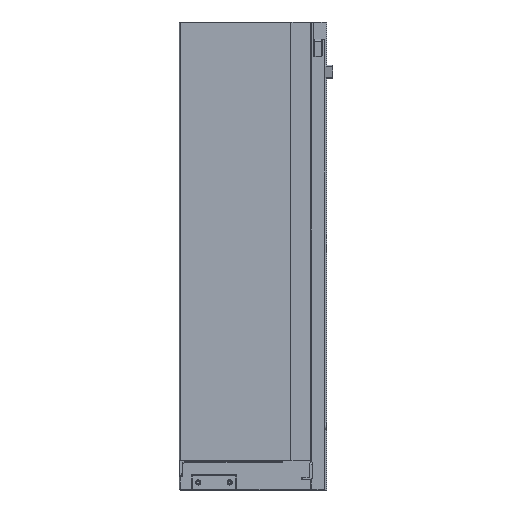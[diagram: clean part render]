
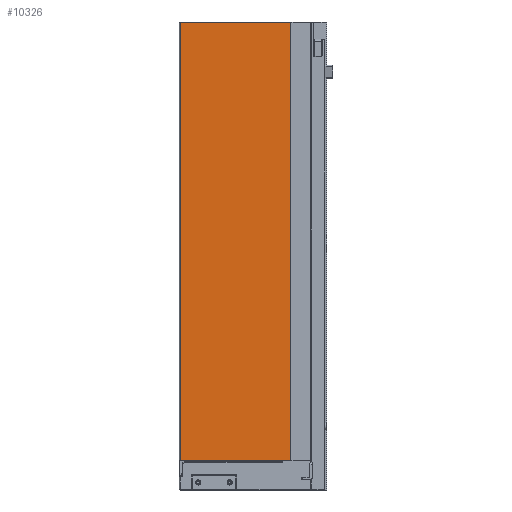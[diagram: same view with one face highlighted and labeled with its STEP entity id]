
A CAD part, left-side view. The second image highlights one B-rep face of the part: STEP entity #10326.
In plain terms, the highlighted planar face has unit normal (-1, 0, 0).
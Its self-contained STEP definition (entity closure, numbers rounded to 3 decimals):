
#404 = LINE ( 'NONE', #1136, #1777 ) ;
#846 = AXIS2_PLACEMENT_3D ( 'NONE', #10946, #5144, #11914 ) ;
#1102 = CARTESIAN_POINT ( 'NONE',  ( -25.5, 0., 0. ) ) ;
#1114 = VECTOR ( 'NONE', #9994, 1000. ) ;
#1136 = CARTESIAN_POINT ( 'NONE',  ( -25.5, 0., 0. ) ) ;
#1777 = VECTOR ( 'NONE', #11827, 1000. ) ;
#2242 = CARTESIAN_POINT ( 'NONE',  ( -25.5, 93.8, -462.455 ) ) ;
#2584 = ORIENTED_EDGE ( 'NONE', *, *, #12325, .T. ) ;
#2675 = VERTEX_POINT ( 'NONE', #8718 ) ;
#3186 = ORIENTED_EDGE ( 'NONE', *, *, #9266, .F. ) ;
#3194 = DIRECTION ( 'NONE',  ( 0., 1., 0. ) ) ;
#3726 = LINE ( 'NONE', #2242, #1114 ) ;
#3961 = VERTEX_POINT ( 'NONE', #1102 ) ;
#3986 = ORIENTED_EDGE ( 'NONE', *, *, #11575, .T. ) ;
#4208 = LINE ( 'NONE', #8977, #6458 ) ;
#4319 = CARTESIAN_POINT ( 'NONE',  ( -25.5, 93.8, 0. ) ) ;
#4368 = EDGE_CURVE ( 'NONE', #2675, #10632, #4208, .T. ) ;
#4849 = VECTOR ( 'NONE', #8260, 1000. ) ;
#5144 = DIRECTION ( 'NONE',  ( -1., 0., 0. ) ) ;
#6134 = EDGE_LOOP ( 'NONE', ( #3186, #11193, #3986, #2584 ) ) ;
#6458 = VECTOR ( 'NONE', #3194, 1000. ) ;
#7282 = CARTESIAN_POINT ( 'NONE',  ( -25.5, 0., -462.455 ) ) ;
#7407 = LINE ( 'NONE', #7282, #4849 ) ;
#8260 = DIRECTION ( 'NONE',  ( 0., 0., 1. ) ) ;
#8552 = CARTESIAN_POINT ( 'NONE',  ( -25.5, 93.8, -373.5 ) ) ;
#8718 = CARTESIAN_POINT ( 'NONE',  ( -25.5, 0., -373.5 ) ) ;
#8977 = CARTESIAN_POINT ( 'NONE',  ( -25.5, 0., -373.5 ) ) ;
#9266 = EDGE_CURVE ( 'NONE', #10632, #9877, #3726, .T. ) ;
#9877 = VERTEX_POINT ( 'NONE', #4319 ) ;
#9905 = FACE_OUTER_BOUND ( 'NONE', #6134, .T. ) ;
#9962 = PLANE ( 'NONE',  #846 ) ;
#9994 = DIRECTION ( 'NONE',  ( 0., 0., 1. ) ) ;
#10326 = ADVANCED_FACE ( 'NONE', ( #9905 ), #9962, .T. ) ;
#10632 = VERTEX_POINT ( 'NONE', #8552 ) ;
#10946 = CARTESIAN_POINT ( 'NONE',  ( -25.5, 0., -462.455 ) ) ;
#11193 = ORIENTED_EDGE ( 'NONE', *, *, #4368, .F. ) ;
#11575 = EDGE_CURVE ( 'NONE', #2675, #3961, #7407, .T. ) ;
#11827 = DIRECTION ( 'NONE',  ( 0., 1., 0. ) ) ;
#11914 = DIRECTION ( 'NONE',  ( 0., 0., 1. ) ) ;
#12325 = EDGE_CURVE ( 'NONE', #3961, #9877, #404, .T. ) ;
